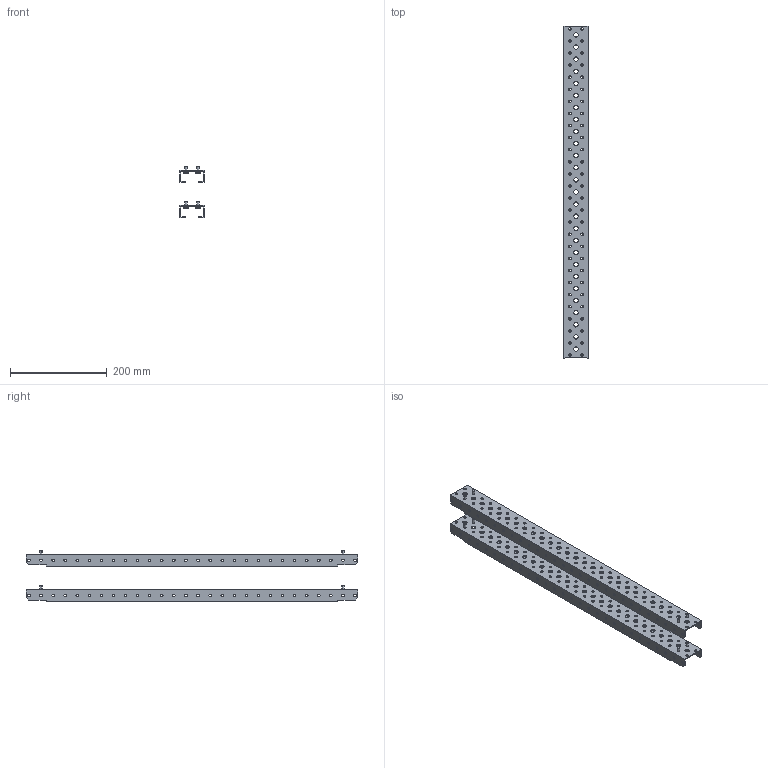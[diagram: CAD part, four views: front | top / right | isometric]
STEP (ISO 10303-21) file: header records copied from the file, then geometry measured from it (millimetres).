
FILE_DESCRIPTION (( 'STEP AP214' ), '1' );
FILE_NAME ('FO-00-PRM-080 Ïðîôèëü ìîíòàæíûé 50?25 â øêàô 800 ìì (2 øò.óïàê.).STEP', '2025-08-04T10:02:37', ( '' ), ( '' ), 'SwSTEP 2.0', 'SolidWorks 2023', '' );
FILE_SCHEMA (( 'AUTOMOTIVE_DESIGN' ));
Length unit declared in the file: millimetre
Products named in the file (3): Профиль монтажный 50×25 в шкаф 800 мм; Метизы M2.5 50×25; FO-00-PRM-080 Профиль монтажный 50×25 в шкаф 800 мм (2 шт.упак.)
Assembly tree (6 placements, depth 2):
  FO-00-PRM-080 Профиль монтажный 50×25 в шкаф 800 мм (2 шт.упак.)
    Профиль монтажный 50×25 в шкаф 800 мм  x2
    Метизы M2.5 50×25  x4
Bounding box: 50 x 687 x 105.7 mm (x, y, z)
Volume: 297000.9 mm3; surface area: 313241.7 mm2
Topology: 10 solids, 10 shells, 760 faces, 2164 edges, 1440 vertices
Faces by surface type: cylinder 588, plane 156, torus 16
Entity records: 12507 total; most frequent: DIRECTION 2308, CARTESIAN_POINT 2043, ORIENTED_EDGE 2024, EDGE_CURVE 1012, AXIS2_PLACEMENT_3D 939, VERTEX_POINT 674, EDGE_LOOP 630, CIRCLE 582
